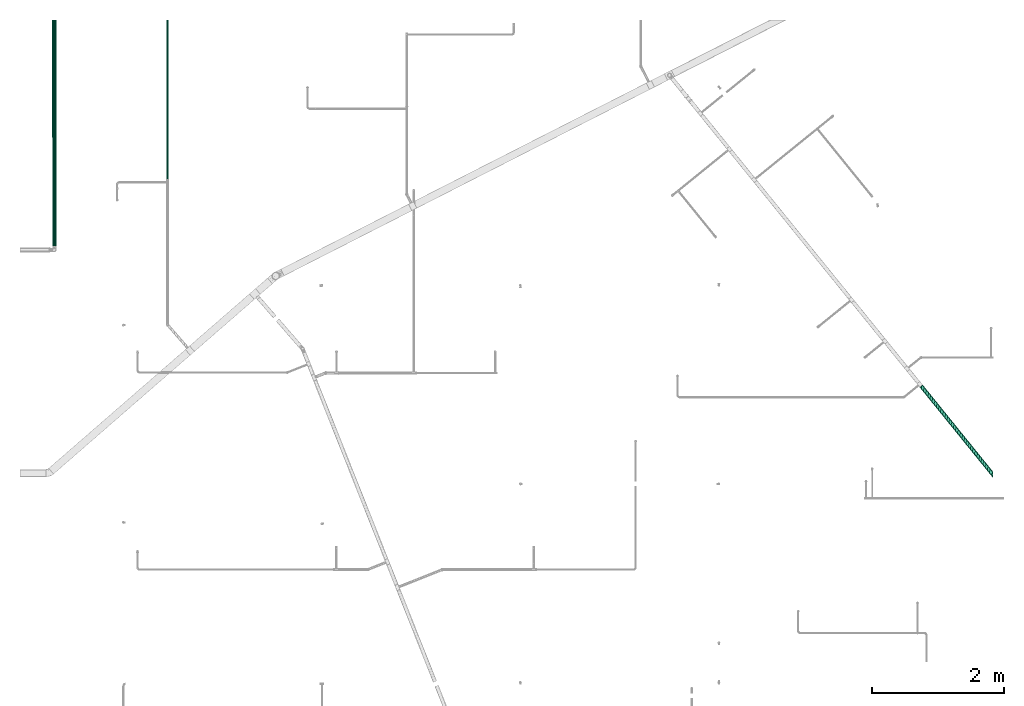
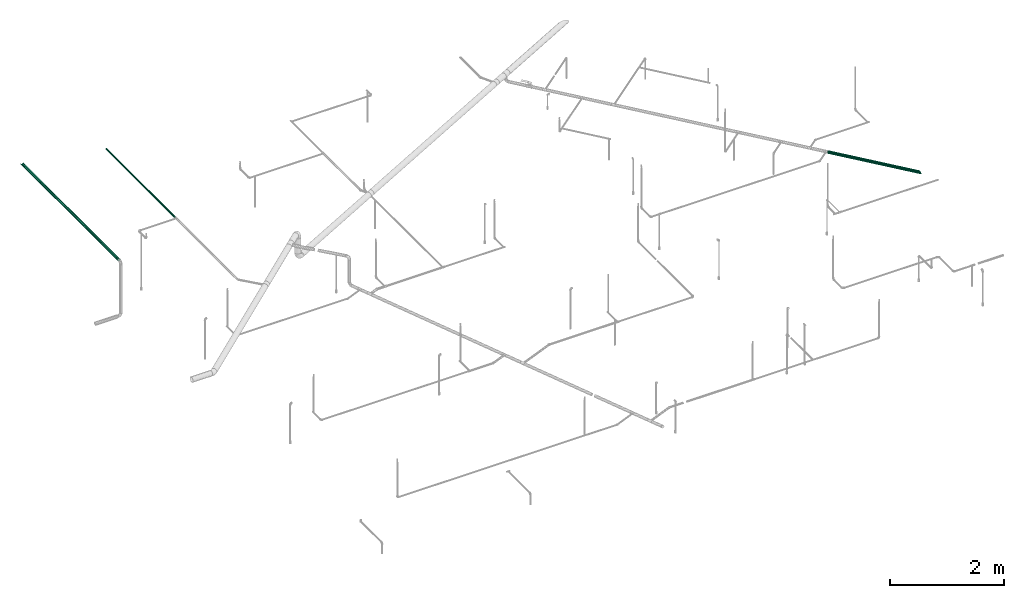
# One storey, part 88 of 94: 3 flow segments.
"""IFC2X3 building model written with IfcOpenShell, lengths in millimetres."""

from ifc_helpers import new_model, entity, si_unit, converted_unit, derived_unit, direction, frame, place, context, subcontext, project, spatial, faceted_brep, type_object, element, save


model = new_model("IFC2X3")

# Units and contexts
model_context = context("Model", 3, precision=0.01, world=frame((0.0, 4.29681676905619e-09, 0.0)), true_north=direction((4.01073788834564e-13, 1.0)))
plan_context = context("Plan", 3, precision=0.01, world=frame((0.0, 4.29681676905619e-09, 0.0)), true_north=direction((4.01073788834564e-13, 1.0)))
body_context = subcontext(model_context, "Body", "Model", "MODEL_VIEW")
ifc_project = project(units=[converted_unit("PLANEANGLEUNIT", "DEGREE", entity("IfcPositiveLengthMeasure", 0.0174532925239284), si_unit("PLANEANGLEUNIT", "RADIAN"), dimensions=[0, 0, 0, 0, 0, 0, 0]), si_unit("AREAUNIT", "SQUARE_METRE"), si_unit("LENGTHUNIT", "METRE", prefix="MILLI"), si_unit("MASSUNIT", "GRAM", prefix="KILO"), si_unit("POWERUNIT", "WATT"), si_unit("PRESSUREUNIT", "PASCAL", prefix="KILO"), si_unit("FORCEUNIT", "NEWTON", prefix="KILO"), si_unit("ELECTRICVOLTAGEUNIT", "VOLT"), si_unit("ELECTRICCURRENTUNIT", "AMPERE"), si_unit("THERMODYNAMICTEMPERATUREUNIT", "DEGREE_CELSIUS"), si_unit("TIMEUNIT", "SECOND"), si_unit("VOLUMEUNIT", "CUBIC_METRE"), derived_unit("LINEARVELOCITYUNIT", [(si_unit("LENGTHUNIT", "METRE"), 1), (si_unit("TIMEUNIT", "SECOND"), -1)]), derived_unit("VOLUMETRICFLOWRATEUNIT", [(si_unit("VOLUMEUNIT", "CUBIC_METRE"), 1), (si_unit("TIMEUNIT", "SECOND"), -1)]), derived_unit("THERMALTRANSMITTANCEUNIT", [(si_unit("POWERUNIT", "WATT"), 1), (si_unit("THERMODYNAMICTEMPERATUREUNIT", "KELVIN"), -1), (si_unit("AREAUNIT", "SQUARE_METRE"), -1)]), derived_unit("SOUNDPRESSUREUNIT", [(si_unit("PRESSUREUNIT", "PASCAL"), 1)])], contexts=[model_context, plan_context])

# Site, building, storey
site_placement = place(None, frame((0.0, -4.29681676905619e-09, 0.0), z_axis=(0.0, 0.0, 1.0), x_axis=(1.0, 0.0, 0.0)))
site = spatial("IfcSite", under=ifc_project, at=site_placement, CompositionType="ELEMENT")
building_placement = place(site_placement, frame((0.0, 4.29681676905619e-09, 0.0), z_axis=(0.0, 0.0, 1.0), x_axis=(1.0, 0.0, 0.0)))
building = spatial("IfcBuilding", under=site, at=building_placement, Name="mc-building", CompositionType="ELEMENT")
storey_placement = place(building_placement, frame((0.0, 0.0, 210900.0), z_axis=(0.0, 0.0, 1.0), x_axis=(1.0, 0.0, 0.0)))
storey = spatial("IfcBuildingStorey", under=building, at=storey_placement, Name="Nivå F", CompositionType="ELEMENT", Elevation=210900.0)

# Flow segments
pipe_segment_type = type_object("IfcPipeSegmentType", Name="Stålrør normaltykke", PredefinedType="RIGIDSEGMENT")
flow_segment_1_placement = place(storey_placement, frame((714955.83176, 442797.30247, 4500.0), z_axis=(0.0, 0.0, 1.0), x_axis=(0.0, 1.0, 0.0)))
element("IfcFlowSegment", 1, at=flow_segment_1_placement, inside=storey, type_object=pipe_segment_type, Name="Stålrør normaltykke", context=body_context, shape_type="Brep", body=[
    faceted_brep([(3414.12199383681, 28.0999999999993, 0.0), (3414.12199383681, 27.673097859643, -4.87951379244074), (0.0, 27.673097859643, -4.87951379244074), (0.0, 28.1, 0.0), (3414.12199383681, 26.405362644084, -9.61076602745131), (0.0, 26.405362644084, -9.61076602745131), (3414.12199383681, 24.3353138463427, -14.05), (0.0, 24.3353138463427, -14.05), (3414.12199383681, 21.5258488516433, -18.0623318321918), (0.0, 21.5258488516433, -18.0623318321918), (3414.12199383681, 18.0623318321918, -21.5258488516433), (0.0, 18.0623318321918, -21.5258488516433), (3414.12199383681, 14.05, -24.3353138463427), (0.0, 14.05, -24.3353138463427), (3414.12199383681, 9.61076602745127, -26.405362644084), (0.0, 9.61076602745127, -26.405362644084), (3414.12199383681, 4.87951379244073, -27.6730978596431), (0.0, 4.87951379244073, -27.6730978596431), (3414.12199383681, -5.16188625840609e-15, -28.1), (0.0, -5.16188625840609e-15, -28.1), (3414.12199383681, -4.87951379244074, -27.673097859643), (0.0, -4.87951379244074, -27.673097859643), (3414.12199383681, -9.61076602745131, -26.405362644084), (0.0, -9.61076602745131, -26.405362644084), (3414.12199383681, -14.05, -24.3353138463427), (0.0, -14.05, -24.3353138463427), (3414.12199383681, -18.0623318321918, -21.5258488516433), (0.0, -18.0623318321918, -21.5258488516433), (3414.12199383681, -21.5258488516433, -18.0623318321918), (0.0, -21.5258488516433, -18.0623318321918), (3414.12199383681, -24.3353138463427, -14.05), (0.0, -24.3353138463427, -14.05), (3414.12199383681, -26.405362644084, -9.61076602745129), (0.0, -26.405362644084, -9.61076602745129), (3414.12199383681, -27.6730978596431, -4.87951379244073), (0.0, -27.6730978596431, -4.87951379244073), (3414.12199383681, -28.9805596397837, 0.0), (0.0, -28.1, 3.44125750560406e-15), (3414.12199383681, 29.6427133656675, -5.2268101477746), (3414.12199383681, 30.8869364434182, 0.0), (0.0, 30.1, 0.0), (0.0, 29.6427133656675, -5.2268101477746), (3414.12199383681, -30.8869364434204, 0.0), (3414.12199383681, -29.6427133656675, -5.22681014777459), (0.0, -29.6427133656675, -5.22681014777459), (0.0, -30.1, 3.68618686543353e-15), (3414.12199383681, -28.2847478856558, -10.2948063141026), (0.0, -28.2847478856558, -10.2948063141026), (3414.12199383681, -26.0673646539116, -15.05), (0.0, -26.0673646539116, -15.05), (3414.12199383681, -23.0579377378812, -19.3479070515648), (0.0, -23.0579377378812, -19.3479070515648), (3414.12199383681, -19.3479070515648, -23.0579377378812), (0.0, -19.3479070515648, -23.0579377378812), (3414.12199383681, -15.05, -26.0673646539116), (0.0, -15.05, -26.0673646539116), (3414.12199383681, -10.2948063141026, -28.2847478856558), (0.0, -10.2948063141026, -28.2847478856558), (3414.12199383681, -5.2268101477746, -29.6427133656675), (0.0, -5.2268101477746, -29.6427133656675), (3414.12199383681, -5.5292802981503e-15, -30.1), (0.0, -5.5292802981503e-15, -30.1), (3414.12199383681, 5.22681014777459, -29.6427133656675), (0.0, 5.22681014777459, -29.6427133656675), (3414.12199383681, 10.2948063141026, -28.2847478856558), (0.0, 10.2948063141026, -28.2847478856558), (3414.12199383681, 15.05, -26.0673646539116), (0.0, 15.05, -26.0673646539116), (3414.12199383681, 19.3479070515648, -23.0579377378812), (0.0, 19.3479070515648, -23.0579377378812), (3414.12199383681, 23.0579377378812, -19.3479070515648), (0.0, 23.0579377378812, -19.3479070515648), (3414.12199383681, 26.0673646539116, -15.05), (0.0, 26.0673646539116, -15.05), (3414.12199383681, 28.2847478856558, -10.2948063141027), (0.0, 28.2847478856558, -10.2948063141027), (3414.12199383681, 30.1, 0.0), (3414.12199383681, -30.1, 3.68618686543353e-15), (3414.12199383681, -28.1, 3.44125750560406e-15)], [[[0, 1, 2, 3]], [[1, 4, 5, 2]], [[4, 6, 7, 5]], [[6, 8, 9, 7]], [[8, 10, 11, 9]], [[10, 12, 13, 11]], [[12, 14, 15, 13]], [[14, 16, 17, 15]], [[16, 18, 19, 17]], [[18, 20, 21, 19]], [[20, 22, 23, 21]], [[22, 24, 25, 23]], [[24, 26, 27, 25]], [[26, 28, 29, 27]], [[28, 30, 31, 29]], [[30, 32, 33, 31]], [[32, 34, 35, 33]], [[34, 36, 37, 35]], [[38, 39, 40, 41]], [[42, 43, 44, 45]], [[43, 46, 47, 44]], [[46, 48, 49, 47]], [[48, 50, 51, 49]], [[50, 52, 53, 51]], [[52, 54, 55, 53]], [[54, 56, 57, 55]], [[56, 58, 59, 57]], [[58, 60, 61, 59]], [[60, 62, 63, 61]], [[62, 64, 65, 63]], [[64, 66, 67, 65]], [[66, 68, 69, 67]], [[68, 70, 71, 69]], [[70, 72, 73, 71]], [[72, 74, 75, 73]], [[74, 38, 41, 75]], [[40, 3, 2, 5, 7, 9, 11, 13, 15, 17, 19, 21, 23, 25, 27, 29, 31, 33, 35, 37, 45, 44, 47, 49, 51, 53, 55, 57, 59, 61, 63, 65, 67, 69, 71, 73, 75, 41]], [[76, 38, 74, 72, 70, 68, 66, 64, 62, 60, 58, 56, 54, 52, 50, 48, 46, 43, 77, 78, 34, 32, 30, 28, 26, 24, 22, 20, 18, 16, 14, 12, 10, 8, 6, 4, 1, 0]], [[0, 3, 40, 76]], [[77, 45, 37, 78]]], orient=[[False], [False], [False], [False], [False], [False], [False], [False], [False], [False], [False], [False], [False], [False], [False], [False], [False], [False], [False], [False], [False], [False], [False], [False], [False], [False], [False], [False], [False], [False], [False], [False], [False], [False], [False], [False], [False], [False], [False], [False]]),
])
flow_segment_2_placement = place(storey_placement, frame((716666.80992, 443802.5901, 4200.0), z_axis=(0.0, 0.0, 1.0), x_axis=(0.0, 1.0, 0.0)))
element("IfcFlowSegment", 2, at=flow_segment_2_placement, inside=storey, type_object=pipe_segment_type, Name="Stålrør normaltykke", context=body_context, shape_type="Brep", body=[
    faceted_brep([(2408.83436383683, 14.9, 0.0), (2408.83436383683, 14.6736355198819, -2.58735784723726), (0.0, 14.6736355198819, -2.58735784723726), (0.0, 14.9, 0.0), (2408.83436383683, 14.00142004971, -5.09610013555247), (0.0, 14.00142004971, -5.09610013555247), (2408.83436383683, 12.9037785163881, -7.45000000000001), (0.0, 12.9037785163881, -7.45000000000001), (2408.83436383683, 11.4140622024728, -9.57753538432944), (0.0, 11.4140622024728, -9.57753538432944), (2408.83436383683, 9.57753538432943, -11.4140622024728), (0.0, 9.57753538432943, -11.4140622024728), (2408.83436383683, 7.45, -12.9037785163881), (0.0, 7.45, -12.9037785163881), (2408.83436383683, 5.09610013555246, -14.00142004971), (0.0, 5.09610013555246, -14.00142004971), (2408.83436383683, 2.58735784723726, -14.6736355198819), (0.0, 2.58735784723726, -14.6736355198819), (2408.83436383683, -2.73708559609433e-15, -14.9), (0.0, -2.73708559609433e-15, -14.9), (2408.83436383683, -2.58735784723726, -14.6736355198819), (0.0, -2.58735784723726, -14.6736355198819), (2408.83436383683, -5.09610013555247, -14.00142004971), (0.0, -5.09610013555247, -14.00142004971), (2408.83436383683, -7.45000000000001, -12.9037785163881), (0.0, -7.45000000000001, -12.9037785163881), (2408.83436383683, -9.57753538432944, -11.4140622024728), (0.0, -9.57753538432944, -11.4140622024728), (2408.83436383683, -11.4140622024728, -9.57753538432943), (0.0, -11.4140622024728, -9.57753538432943), (2408.83436383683, -12.9037785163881, -7.44999999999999), (0.0, -12.9037785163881, -7.44999999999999), (2408.83436383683, -14.00142004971, -5.09610013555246), (0.0, -14.00142004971, -5.09610013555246), (2408.83436383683, -14.6736355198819, -2.58735784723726), (0.0, -14.6736355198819, -2.58735784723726), (2408.83436383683, -14.9, 1.82472373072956e-15), (0.0, -14.9, 1.82472373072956e-15), (2408.83436383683, -14.6736355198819, 2.58735784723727), (0.0, -14.6736355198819, 2.58735784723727), (2408.83436383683, -14.00142004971, 5.09610013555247), (0.0, -14.00142004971, 5.09610013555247), (2408.83436383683, -12.9037785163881, 7.45), (0.0, -12.9037785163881, 7.45), (2408.83436383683, -11.4140622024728, 9.57753538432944), (0.0, -11.4140622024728, 9.57753538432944), (2408.83436383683, -9.57753538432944, 11.4140622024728), (0.0, -9.57753538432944, 11.4140622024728), (2408.83436383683, -7.45, 12.9037785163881), (0.0, -7.45, 12.9037785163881), (2408.83436383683, -5.09610013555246, 14.00142004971), (0.0, -5.09610013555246, 14.00142004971), (2408.83436383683, -2.58735784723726, 14.6736355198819), (0.0, -2.58735784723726, 14.6736355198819), (2408.83436383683, 9.12361865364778e-16, 14.9), (0.0, 9.12361865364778e-16, 14.9), (2408.83436383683, 2.58735784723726, 14.6736355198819), (0.0, 2.58735784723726, 14.6736355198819), (2408.83436383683, 5.09610013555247, 14.00142004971), (0.0, 5.09610013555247, 14.00142004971), (2408.83436383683, 7.45, 12.9037785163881), (0.0, 7.45, 12.9037785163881), (2408.83436383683, 9.57753538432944, 11.4140622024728), (0.0, 9.57753538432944, 11.4140622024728), (2408.83436383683, 11.4140622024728, 9.57753538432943), (0.0, 11.4140622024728, 9.57753538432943), (2408.83436383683, 12.9037785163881, 7.45), (0.0, 12.9037785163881, 7.45), (2408.83436383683, 14.00142004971, 5.09610013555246), (0.0, 14.00142004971, 5.09610013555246), (2408.83436383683, 14.6736355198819, 2.58735784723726), (0.0, 14.6736355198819, 2.58735784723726), (2408.83436383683, 16.6432510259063, -2.93465420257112), (2408.83436383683, 16.9, 0.0), (0.0, 16.9, 0.0), (0.0, 16.6432510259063, -2.93465420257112), (2408.83436383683, 16.6432510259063, 2.93465420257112), (0.0, 16.6432510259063, 2.93465420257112), (2408.83436383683, 15.8808052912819, 5.7801404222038), (0.0, 15.8808052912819, 5.7801404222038), (2408.83436383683, 14.635829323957, 8.45), (0.0, 14.635829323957, 8.45), (2408.83436383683, 12.9461510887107, 10.8631106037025), (0.0, 12.9461510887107, 10.8631106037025), (2408.83436383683, 10.8631106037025, 12.9461510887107), (0.0, 10.8631106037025, 12.9461510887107), (2408.83436383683, 8.45, 14.635829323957), (0.0, 8.45, 14.635829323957), (2408.83436383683, 5.7801404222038, 15.8808052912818), (0.0, 5.7801404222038, 15.8808052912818), (2408.83436383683, 2.93465420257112, 16.6432510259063), (0.0, 2.93465420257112, 16.6432510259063), (2408.83436383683, 1.03482654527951e-15, 16.9), (0.0, 1.03482654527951e-15, 16.9), (2408.83436383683, -2.93465420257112, 16.6432510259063), (0.0, -2.93465420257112, 16.6432510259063), (2408.83436383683, -5.7801404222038, 15.8808052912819), (0.0, -5.7801404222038, 15.8808052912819), (2408.83436383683, -8.45, 14.635829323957), (0.0, -8.45, 14.635829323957), (2408.83436383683, -10.8631106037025, 12.9461510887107), (0.0, -10.8631106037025, 12.9461510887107), (2408.83436383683, -12.9461510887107, 10.8631106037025), (0.0, -12.9461510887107, 10.8631106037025), (2408.83436383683, -14.635829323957, 8.45), (0.0, -14.635829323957, 8.45), (2408.83436383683, -15.8808052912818, 5.7801404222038), (0.0, -15.8808052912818, 5.7801404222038), (2408.83436383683, -16.6432510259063, 2.93465420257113), (0.0, -16.6432510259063, 2.93465420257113), (2408.83436383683, -16.9, 2.06965309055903e-15), (0.0, -16.9, 2.06965309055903e-15), (2408.83436383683, -16.6432510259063, -2.93465420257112), (0.0, -16.6432510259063, -2.93465420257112), (2408.83436383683, -15.8808052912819, -5.7801404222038), (0.0, -15.8808052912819, -5.7801404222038), (2408.83436383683, -14.635829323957, -8.44999999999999), (0.0, -14.635829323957, -8.44999999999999), (2408.83436383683, -12.9461510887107, -10.8631106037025), (0.0, -12.9461510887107, -10.8631106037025), (2408.83436383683, -10.8631106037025, -12.9461510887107), (0.0, -10.8631106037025, -12.9461510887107), (2408.83436383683, -8.45000000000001, -14.635829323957), (0.0, -8.45000000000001, -14.635829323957), (2408.83436383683, -5.78014042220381, -15.8808052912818), (0.0, -5.78014042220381, -15.8808052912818), (2408.83436383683, -2.93465420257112, -16.6432510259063), (0.0, -2.93465420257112, -16.6432510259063), (2408.83436383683, -3.10447963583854e-15, -16.9), (0.0, -3.10447963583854e-15, -16.9), (2408.83436383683, 2.93465420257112, -16.6432510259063), (0.0, 2.93465420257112, -16.6432510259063), (2408.83436383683, 5.78014042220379, -15.8808052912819), (0.0, 5.78014042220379, -15.8808052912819), (2408.83436383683, 8.45, -14.635829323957), (0.0, 8.45, -14.635829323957), (2408.83436383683, 10.8631106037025, -12.9461510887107), (0.0, 10.8631106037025, -12.9461510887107), (2408.83436383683, 12.9461510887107, -10.8631106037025), (0.0, 12.9461510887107, -10.8631106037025), (2408.83436383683, 14.635829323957, -8.45000000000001), (0.0, 14.635829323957, -8.45000000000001), (2408.83436383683, 15.8808052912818, -5.78014042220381), (0.0, 15.8808052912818, -5.78014042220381)], [[[0, 1, 2, 3]], [[1, 4, 5, 2]], [[4, 6, 7, 5]], [[6, 8, 9, 7]], [[8, 10, 11, 9]], [[10, 12, 13, 11]], [[12, 14, 15, 13]], [[14, 16, 17, 15]], [[16, 18, 19, 17]], [[18, 20, 21, 19]], [[20, 22, 23, 21]], [[22, 24, 25, 23]], [[24, 26, 27, 25]], [[26, 28, 29, 27]], [[28, 30, 31, 29]], [[30, 32, 33, 31]], [[32, 34, 35, 33]], [[34, 36, 37, 35]], [[36, 38, 39, 37]], [[38, 40, 41, 39]], [[40, 42, 43, 41]], [[42, 44, 45, 43]], [[44, 46, 47, 45]], [[46, 48, 49, 47]], [[48, 50, 51, 49]], [[50, 52, 53, 51]], [[52, 54, 55, 53]], [[54, 56, 57, 55]], [[56, 58, 59, 57]], [[58, 60, 61, 59]], [[60, 62, 63, 61]], [[62, 64, 65, 63]], [[64, 66, 67, 65]], [[66, 68, 69, 67]], [[68, 70, 71, 69]], [[70, 0, 3, 71]], [[72, 73, 74, 75]], [[73, 76, 77, 74]], [[76, 78, 79, 77]], [[78, 80, 81, 79]], [[80, 82, 83, 81]], [[82, 84, 85, 83]], [[84, 86, 87, 85]], [[86, 88, 89, 87]], [[88, 90, 91, 89]], [[90, 92, 93, 91]], [[92, 94, 95, 93]], [[94, 96, 97, 95]], [[96, 98, 99, 97]], [[98, 100, 101, 99]], [[100, 102, 103, 101]], [[102, 104, 105, 103]], [[104, 106, 107, 105]], [[106, 108, 109, 107]], [[108, 110, 111, 109]], [[110, 112, 113, 111]], [[112, 114, 115, 113]], [[114, 116, 117, 115]], [[116, 118, 119, 117]], [[118, 120, 121, 119]], [[120, 122, 123, 121]], [[122, 124, 125, 123]], [[124, 126, 127, 125]], [[126, 128, 129, 127]], [[128, 130, 131, 129]], [[130, 132, 133, 131]], [[132, 134, 135, 133]], [[134, 136, 137, 135]], [[136, 138, 139, 137]], [[138, 140, 141, 139]], [[140, 142, 143, 141]], [[142, 72, 75, 143]], [[75, 74, 77, 79, 81, 83, 85, 87, 89, 91, 93, 95, 97, 99, 101, 103, 105, 107, 109, 111, 113, 115, 117, 119, 121, 123, 125, 127, 129, 131, 133, 135, 137, 139, 141, 143], [3, 2, 5, 7, 9, 11, 13, 15, 17, 19, 21, 23, 25, 27, 29, 31, 33, 35, 37, 39, 41, 43, 45, 47, 49, 51, 53, 55, 57, 59, 61, 63, 65, 67, 69, 71]], [[142, 140, 138, 136, 134, 132, 130, 128, 126, 124, 122, 120, 118, 116, 114, 112, 110, 108, 106, 104, 102, 100, 98, 96, 94, 92, 90, 88, 86, 84, 82, 80, 78, 76, 73, 72], [70, 68, 66, 64, 62, 60, 58, 56, 54, 52, 50, 48, 46, 44, 42, 40, 38, 36, 34, 32, 30, 28, 26, 24, 22, 20, 18, 16, 14, 12, 10, 8, 6, 4, 1, 0]]], orient=[[False], [False], [False], [False], [False], [False], [False], [False], [False], [False], [False], [False], [False], [False], [False], [False], [False], [False], [False], [False], [False], [False], [False], [False], [False], [False], [False], [False], [False], [False], [False], [False], [False], [False], [False], [False], [False], [False], [False], [False], [False], [False], [False], [False], [False], [False], [False], [False], [False], [False], [False], [False], [False], [False], [False], [False], [False], [False], [False], [False], [False], [False], [False], [False], [False], [False], [False], [False], [False], [False], [False], [False], [False, False], [False, False]]),
])
flow_segment_3_placement = place(storey_placement, frame((728056.89545, 440679.41008, 3500.0), z_axis=(0.0, 0.0, 1.0), x_axis=(0.629320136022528, -0.777146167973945, 0.0)))
element("IfcFlowSegment", 3, at=flow_segment_3_placement, inside=storey, type_object=pipe_segment_type, Name="Stålrør normaltykke", context=body_context, shape_type="Brep", body=[
    faceted_brep([(1690.48544333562, 28.1, 0.0), (1691.01262392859, 27.6730978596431, -4.87951379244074), (0.0, 27.673097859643, -4.87951379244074), (0.0, 28.1, 0.0), (1692.57814759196, 26.405362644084, -9.61076602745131), (0.0, 26.405362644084, -9.61076602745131), (1695.1344466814, 24.3353138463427, -14.05), (0.0, 24.3353138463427, -14.05), (1698.60384934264, 21.5258488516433, -18.0623318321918), (0.0, 21.5258488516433, -18.0623318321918), (1702.88093953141, 18.0623318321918, -21.5258488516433), (0.0, 18.0623318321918, -21.5258488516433), (1707.83576002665, 14.05, -24.3353138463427), (0.0, 14.05, -24.3353138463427), (1713.31776111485, 9.61076602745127, -26.405362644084), (0.0, 9.61076602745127, -26.405362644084), (1719.160374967, 4.87951379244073, -27.6730978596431), (0.0, 4.87951379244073, -27.6730978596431), (1725.18607671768, -5.16188625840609e-15, -28.1), (0.0, -5.16188625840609e-15, -28.1), (1731.21177846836, -4.87951379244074, -27.673097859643), (0.0, -4.87951379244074, -27.673097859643), (1737.0543923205, -9.61076602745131, -26.405362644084), (0.0, -9.61076602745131, -26.405362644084), (1742.53639340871, -14.05, -24.3353138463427), (0.0, -14.05, -24.3353138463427), (1747.49121390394, -18.0623318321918, -21.5258488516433), (0.0, -18.0623318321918, -21.5258488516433), (1751.76830409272, -21.5258488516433, -18.0623318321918), (0.0, -21.5258488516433, -18.0623318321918), (1755.23770675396, -24.3353138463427, -14.05), (0.0, -24.3353138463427, -14.05), (1757.7940058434, -26.405362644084, -9.61076602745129), (0.0, -26.405362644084, -9.61076602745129), (1759.35952950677, -27.6730978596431, -4.87951379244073), (0.0, -27.6730978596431, -4.87951379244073), (1759.88671009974, -28.1, 3.44125750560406e-15), (0.0, -28.1, 3.44125750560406e-15), (1759.35952950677, -27.673097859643, 4.87951379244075), (0.0, -27.673097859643, 4.87951379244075), (1757.7940058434, -26.405362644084, 9.6107660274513), (0.0, -26.405362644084, 9.6107660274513), (1755.23770675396, -24.3353138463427, 14.05), (0.0, -24.3353138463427, 14.05), (1751.76830409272, -21.5258488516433, 18.0623318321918), (0.0, -21.5258488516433, 18.0623318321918), (1747.49121390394, -18.0623318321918, 21.5258488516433), (0.0, -18.0623318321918, 21.5258488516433), (1742.53639340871, -14.05, 24.3353138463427), (0.0, -14.05, 24.3353138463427), (1737.0543923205, -9.61076602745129, 26.405362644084), (0.0, -9.61076602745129, 26.405362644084), (1731.21177846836, -4.87951379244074, 27.673097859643), (0.0, -4.87951379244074, 27.673097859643), (1725.18607671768, 1.72062875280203e-15, 28.1), (0.0, 1.72062875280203e-15, 28.1), (1719.160374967, 4.87951379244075, 27.6730978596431), (0.0, 4.87951379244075, 27.673097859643), (1713.31776111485, 9.61076602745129, 26.405362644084), (0.0, 9.61076602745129, 26.405362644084), (1707.83576002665, 14.05, 24.3353138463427), (0.0, 14.05, 24.3353138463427), (1702.88093953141, 18.0623318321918, 21.5258488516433), (0.0, 18.0623318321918, 21.5258488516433), (1698.60384934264, 21.5258488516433, 18.0623318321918), (0.0, 21.5258488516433, 18.0623318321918), (1695.1344466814, 24.3353138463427, 14.05), (0.0, 24.3353138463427, 14.05), (1692.57814759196, 26.405362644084, 9.61076602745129), (0.0, 26.405362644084, 9.61076602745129), (1691.01262392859, 27.6730978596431, 4.87951379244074), (0.0, 27.673097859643, 4.87951379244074), (1688.58034970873, 29.6427133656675, -5.22681014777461), (1688.01564736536, 30.1, 0.0), (0.0, 30.1, 0.0), (0.0, 29.6427133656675, -5.2268101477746), (1688.58034970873, 29.6427133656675, 5.2268101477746), (0.0, 29.6427133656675, 5.2268101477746), (1690.25729854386, 28.2847478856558, 10.2948063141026), (0.0, 28.2847478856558, 10.2948063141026), (1692.995540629, 26.0673646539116, 15.05), (0.0, 26.0673646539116, 15.05), (1696.71187586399, 23.0579377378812, 19.3479070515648), (0.0, 23.0579377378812, 19.3479070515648), (1701.29338528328, 19.3479070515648, 23.0579377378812), (0.0, 19.3479070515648, 23.0579377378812), (1706.60086204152, 15.05, 26.0673646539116), (0.0, 15.05, 26.0673646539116), (1712.47304114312, 10.2948063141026, 28.2847478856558), (0.0, 10.2948063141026, 28.2847478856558), (1718.73149939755, 5.22681014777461, 29.6427133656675), (0.0, 5.22681014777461, 29.6427133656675), (1725.18607671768, 1.84309343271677e-15, 30.1), (0.0, 1.84309343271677e-15, 30.1), (1731.64065403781, -5.2268101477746, 29.6427133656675), (0.0, -5.2268101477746, 29.6427133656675), (1737.89911229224, -10.2948063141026, 28.2847478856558), (0.0, -10.2948063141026, 28.2847478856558), (1743.77129139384, -15.05, 26.0673646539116), (0.0, -15.05, 26.0673646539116), (1749.07876815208, -19.3479070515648, 23.0579377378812), (0.0, -19.3479070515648, 23.0579377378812), (1753.66027757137, -23.0579377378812, 19.3479070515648), (0.0, -23.0579377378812, 19.3479070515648), (1757.37661280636, -26.0673646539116, 15.05), (0.0, -26.0673646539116, 15.05), (1760.1148548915, -28.2847478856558, 10.2948063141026), (0.0, -28.2847478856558, 10.2948063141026), (1761.79180372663, -29.6427133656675, 5.22681014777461), (0.0, -29.6427133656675, 5.22681014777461), (1762.35650607, -30.1, 3.68618686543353e-15), (0.0, -30.1, 3.68618686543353e-15), (1761.79180372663, -29.6427133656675, -5.22681014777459), (0.0, -29.6427133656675, -5.22681014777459), (1760.1148548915, -28.2847478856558, -10.2948063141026), (0.0, -28.2847478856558, -10.2948063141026), (1757.37661280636, -26.0673646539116, -15.05), (0.0, -26.0673646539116, -15.05), (1753.66027757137, -23.0579377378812, -19.3479070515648), (0.0, -23.0579377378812, -19.3479070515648), (1749.07876815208, -19.3479070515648, -23.0579377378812), (0.0, -19.3479070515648, -23.0579377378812), (1743.77129139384, -15.05, -26.0673646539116), (0.0, -15.05, -26.0673646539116), (1737.89911229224, -10.2948063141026, -28.2847478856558), (0.0, -10.2948063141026, -28.2847478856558), (1731.64065403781, -5.2268101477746, -29.6427133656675), (0.0, -5.2268101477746, -29.6427133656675), (1725.18607671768, -5.5292802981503e-15, -30.1), (0.0, -5.5292802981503e-15, -30.1), (1718.73149939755, 5.22681014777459, -29.6427133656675), (0.0, 5.22681014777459, -29.6427133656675), (1712.47304114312, 10.2948063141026, -28.2847478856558), (0.0, 10.2948063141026, -28.2847478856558), (1706.60086204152, 15.05, -26.0673646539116), (0.0, 15.05, -26.0673646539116), (1701.29338528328, 19.3479070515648, -23.0579377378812), (0.0, 19.3479070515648, -23.0579377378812), (1696.71187586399, 23.0579377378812, -19.3479070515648), (0.0, 23.0579377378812, -19.3479070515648), (1692.995540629, 26.0673646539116, -15.05), (0.0, 26.0673646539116, -15.05), (1690.25729854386, 28.2847478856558, -10.2948063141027), (0.0, 28.2847478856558, -10.2948063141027)], [[[0, 1, 2, 3]], [[1, 4, 5, 2]], [[4, 6, 7, 5]], [[6, 8, 9, 7]], [[8, 10, 11, 9]], [[10, 12, 13, 11]], [[12, 14, 15, 13]], [[14, 16, 17, 15]], [[16, 18, 19, 17]], [[18, 20, 21, 19]], [[20, 22, 23, 21]], [[22, 24, 25, 23]], [[24, 26, 27, 25]], [[26, 28, 29, 27]], [[28, 30, 31, 29]], [[30, 32, 33, 31]], [[32, 34, 35, 33]], [[34, 36, 37, 35]], [[36, 38, 39, 37]], [[38, 40, 41, 39]], [[40, 42, 43, 41]], [[42, 44, 45, 43]], [[44, 46, 47, 45]], [[46, 48, 49, 47]], [[48, 50, 51, 49]], [[50, 52, 53, 51]], [[52, 54, 55, 53]], [[54, 56, 57, 55]], [[56, 58, 59, 57]], [[58, 60, 61, 59]], [[60, 62, 63, 61]], [[62, 64, 65, 63]], [[64, 66, 67, 65]], [[66, 68, 69, 67]], [[68, 70, 71, 69]], [[70, 0, 3, 71]], [[72, 73, 74, 75]], [[73, 76, 77, 74]], [[76, 78, 79, 77]], [[78, 80, 81, 79]], [[80, 82, 83, 81]], [[82, 84, 85, 83]], [[84, 86, 87, 85]], [[86, 88, 89, 87]], [[88, 90, 91, 89]], [[90, 92, 93, 91]], [[92, 94, 95, 93]], [[94, 96, 97, 95]], [[96, 98, 99, 97]], [[98, 100, 101, 99]], [[100, 102, 103, 101]], [[102, 104, 105, 103]], [[104, 106, 107, 105]], [[106, 108, 109, 107]], [[108, 110, 111, 109]], [[110, 112, 113, 111]], [[112, 114, 115, 113]], [[114, 116, 117, 115]], [[116, 118, 119, 117]], [[118, 120, 121, 119]], [[120, 122, 123, 121]], [[122, 124, 125, 123]], [[124, 126, 127, 125]], [[126, 128, 129, 127]], [[128, 130, 131, 129]], [[130, 132, 133, 131]], [[132, 134, 135, 133]], [[134, 136, 137, 135]], [[136, 138, 139, 137]], [[138, 140, 141, 139]], [[140, 142, 143, 141]], [[142, 72, 75, 143]], [[75, 74, 77, 79, 81, 83, 85, 87, 89, 91, 93, 95, 97, 99, 101, 103, 105, 107, 109, 111, 113, 115, 117, 119, 121, 123, 125, 127, 129, 131, 133, 135, 137, 139, 141, 143], [3, 2, 5, 7, 9, 11, 13, 15, 17, 19, 21, 23, 25, 27, 29, 31, 33, 35, 37, 39, 41, 43, 45, 47, 49, 51, 53, 55, 57, 59, 61, 63, 65, 67, 69, 71]], [[142, 140, 138, 136, 134, 132, 130, 128, 126, 124, 122, 120, 118, 116, 114, 112, 110, 108, 106, 104, 102, 100, 98, 96, 94, 92, 90, 88, 86, 84, 82, 80, 78, 76, 73, 72], [70, 68, 66, 64, 62, 60, 58, 56, 54, 52, 50, 48, 46, 44, 42, 40, 38, 36, 34, 32, 30, 28, 26, 24, 22, 20, 18, 16, 14, 12, 10, 8, 6, 4, 1, 0]]], orient=[[False], [False], [False], [False], [False], [False], [False], [False], [False], [False], [False], [False], [False], [False], [False], [False], [False], [False], [False], [False], [False], [False], [False], [False], [False], [False], [False], [False], [False], [False], [False], [False], [False], [False], [False], [False], [False], [False], [False], [False], [False], [False], [False], [False], [False], [False], [False], [False], [False], [False], [False], [False], [False], [False], [False], [False], [False], [False], [False], [False], [False], [False], [False], [False], [False], [False], [False], [False], [False], [False], [False], [False], [False, False], [False, False]]),
])

save(model, "model.ifc")
